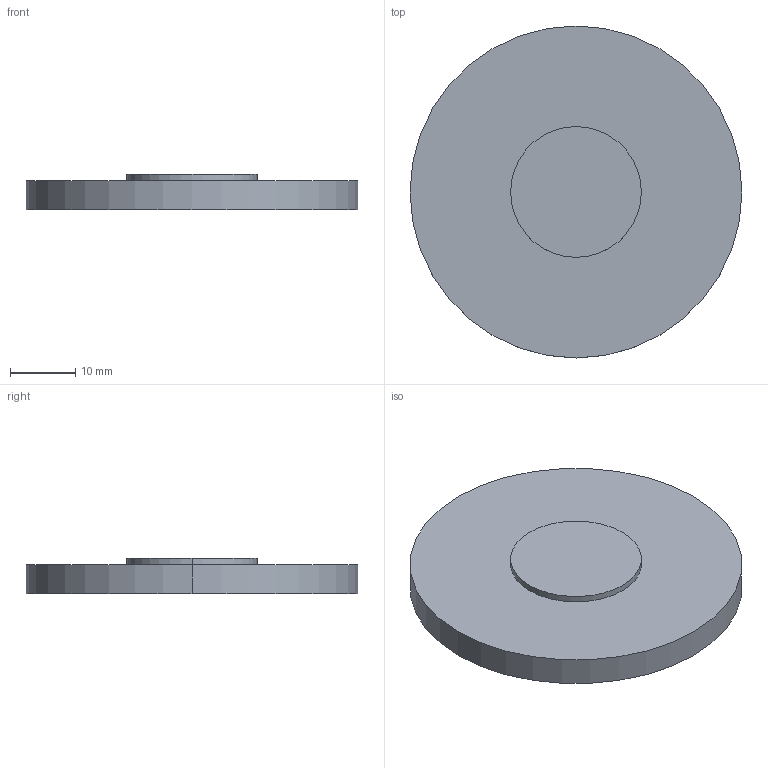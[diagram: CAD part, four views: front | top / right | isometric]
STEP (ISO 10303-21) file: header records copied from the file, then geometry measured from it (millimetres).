
FILE_DESCRIPTION(('STEP AP214'),'1');
FILE_NAME('LLV-5110M.STEP','2020-03-09T17:42:25',(' '),(' '),'Spatial InterOp 3D',' ',' ');
FILE_SCHEMA(('AUTOMOTIVE_DESIGN { 1 0 10303 214 1 1 1 1 }'));
Length unit declared in the file: millimetre
Products named in the file (1): 1
Bounding box: 50.8 x 50.8 x 5.5 mm (x, y, z)
Volume: 9369.5 mm3; surface area: 5452.7 mm2
Topology: 2 solids, 2 shells, 9 faces, 16 edges, 9 vertices
Faces by surface type: cylinder 4, plane 3, sphere 2
Entity records: 229 total; most frequent: DIRECTION 46, CARTESIAN_POINT 34, ORIENTED_EDGE 28, AXIS2_PLACEMENT_3D 21, EDGE_CURVE 14, CIRCLE 10, ADVANCED_FACE 9, FACE_OUTER_BOUND 9
